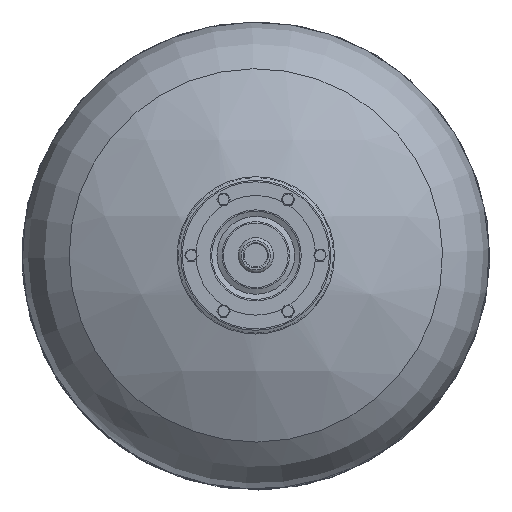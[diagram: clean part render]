
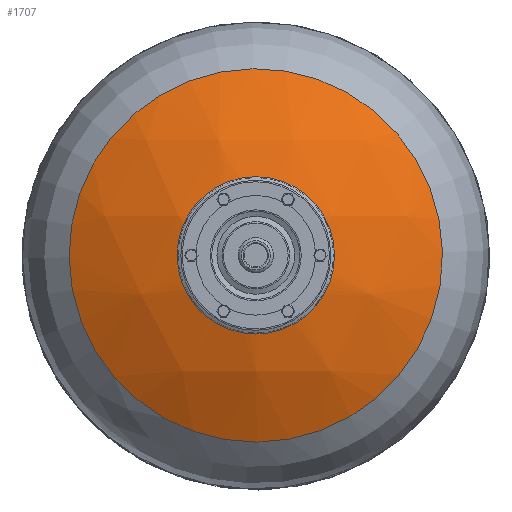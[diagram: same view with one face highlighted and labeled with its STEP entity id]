
A CAD part, top view. The second image highlights one B-rep face of the part: STEP entity #1707.
In plain terms, the highlighted spherical face has radius 624 mm.
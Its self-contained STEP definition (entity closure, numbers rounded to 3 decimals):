
#1707=ADVANCED_FACE('',(#5077,#5079),#5081,.T.);
#5077=FACE_BOUND('',#5078,.T.);
#5078=EDGE_LOOP('',(#7670,#7671));
#5079=FACE_BOUND('',#5080,.T.);
#5080=EDGE_LOOP('',(#7672,#7673));
#5081=SPHERICAL_SURFACE('',#5082,624.);
#5082=AXIS2_PLACEMENT_3D('',#5083,#5084,#5085);
#5083=CARTESIAN_POINT('',(9654.276,-3682.083,753.243));
#5084=DIRECTION('',(-0.8,-0.55,0.241));
#5085=DIRECTION('',(0.462,-0.82,-0.339));
#7670=ORIENTED_EDGE('',*,*,#9023,.F.);
#7671=ORIENTED_EDGE('',*,*,#9022,.F.);
#7672=ORIENTED_EDGE('',*,*,#9063,.T.);
#7673=ORIENTED_EDGE('',*,*,#9064,.T.);
#9022=EDGE_CURVE('',#10261,#10262,#10263,.T.);
#9023=EDGE_CURVE('',#10262,#10261,#10264,.T.);
#9063=EDGE_CURVE('',#10333,#10334,#10335,.T.);
#9064=EDGE_CURVE('',#10334,#10333,#10336,.T.);
#10261=VERTEX_POINT('',#13184);
#10262=VERTEX_POINT('',#13185);
#10263=CIRCLE('',#13186,312.);
#10264=CIRCLE('',#13190,312.);
#10333=VERTEX_POINT('',#13577);
#10334=VERTEX_POINT('',#13578);
#10335=TRIMMED_CURVE('',#13579,(PARAMETER_VALUE(3.704)),(PARAMETER_VALUE(
6.899)),.T.,.PARAMETER.);
#10336=TRIMMED_CURVE('',#13580,(PARAMETER_VALUE(0.616)),(PARAMETER_VALUE(
3.704)),.T.,.PARAMETER.);
#13184=CARTESIAN_POINT('',(9762.537,-3487.445,1336.142));
#13185=CARTESIAN_POINT('',(9757.87,-3489.657,1337.723));
#13186=AXIS2_PLACEMENT_3D('',#13187,#13188,#13189);
#13187=CARTESIAN_POINT('',(9861.783,-3768.728,1244.634));
#13188=DIRECTION('',(-0.384,0.16,-0.909));
#13189=DIRECTION('',(-0.318,0.902,0.293));
#13190=AXIS2_PLACEMENT_3D('',#13191,#13192,#13193);
#13191=CARTESIAN_POINT('',(9861.783,-3768.728,1244.634));
#13192=DIRECTION('',(-0.384,0.16,-0.909));
#13193=DIRECTION('',(-0.333,0.894,0.298));
#13577=CARTESIAN_POINT('',(9894.368,-3682.095,1329.204));
#13578=CARTESIAN_POINT('',(9882.278,-3879.59,1299.487));
#13579=CIRCLE('',#18093,100.078);
#13580=CIRCLE('',#18097,100.078);
#18093=AXIS2_PLACEMENT_3D('',#18094,#18095,#18096);
#18094=CARTESIAN_POINT('',(9890.783,-3780.837,1313.308));
#18095=DIRECTION('',(-0.384,0.16,-0.909));
#18096=DIRECTION('',(0.462,-0.82,-0.339));
#18097=AXIS2_PLACEMENT_3D('',#18098,#18099,#18100);
#18098=CARTESIAN_POINT('',(9890.783,-3780.837,1313.308));
#18099=DIRECTION('',(-0.384,0.16,-0.909));
#18100=DIRECTION('',(0.462,-0.82,-0.339));
